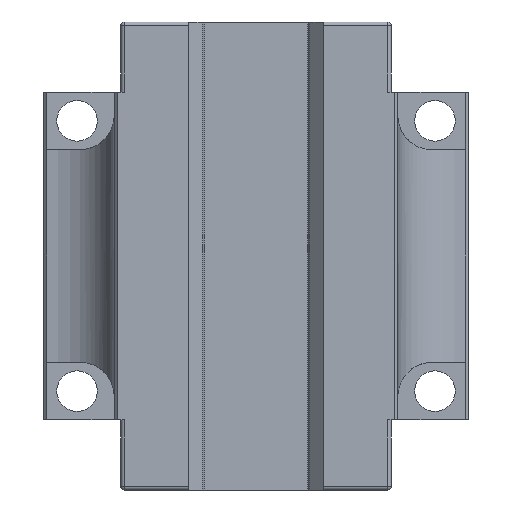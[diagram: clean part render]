
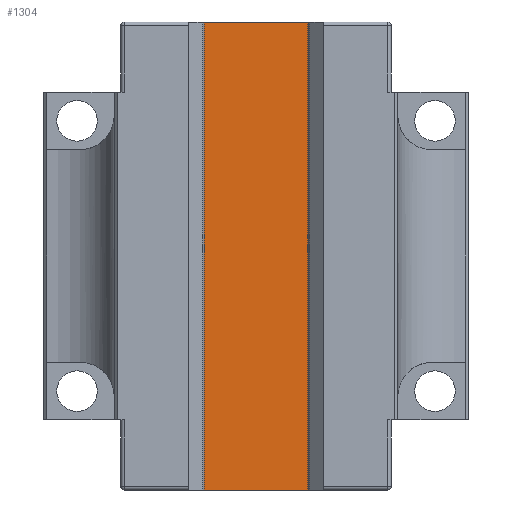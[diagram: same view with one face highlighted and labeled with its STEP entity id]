
A CAD part, front view. The second image highlights one B-rep face of the part: STEP entity #1304.
In plain terms, the highlighted planar face has unit normal (0, -1, 0).
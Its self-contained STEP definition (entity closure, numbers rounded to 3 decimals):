
#26 = VECTOR ( 'NONE', #2148, 1000. ) ;
#27 = PLANE ( 'NONE',  #1970 ) ;
#204 = VERTEX_POINT ( 'NONE', #330 ) ;
#238 = DIRECTION ( 'NONE',  ( 0., 1., 0. ) ) ;
#253 = ORIENTED_EDGE ( 'NONE', *, *, #891, .T. ) ;
#263 = EDGE_CURVE ( 'NONE', #2443, #204, #720, .T. ) ;
#330 = CARTESIAN_POINT ( 'NONE',  ( -9., 16.3, -34.65 ) ) ;
#379 = LINE ( 'NONE', #1908, #2091 ) ;
#383 = DIRECTION ( 'NONE',  ( 0., 0., -1. ) ) ;
#413 = LINE ( 'NONE', #1732, #1704 ) ;
#546 = CARTESIAN_POINT ( 'NONE',  ( -10., 16.3, 34.65 ) ) ;
#567 = DIRECTION ( 'NONE',  ( 0., 0., 1. ) ) ;
#683 = VECTOR ( 'NONE', #2172, 1000. ) ;
#705 = CARTESIAN_POINT ( 'NONE',  ( 9., 16.3, -34.65 ) ) ;
#714 = EDGE_LOOP ( 'NONE', ( #1815, #2578, #1685, #253 ) ) ;
#720 = LINE ( 'NONE', #2903, #683 ) ;
#879 = CARTESIAN_POINT ( 'NONE',  ( -10., 16.3, -34.65 ) ) ;
#891 = EDGE_CURVE ( 'NONE', #1879, #204, #413, .T. ) ;
#987 = EDGE_CURVE ( 'NONE', #2443, #1175, #379, .T. ) ;
#1120 = CARTESIAN_POINT ( 'NONE',  ( -9., 16.3, 34.65 ) ) ;
#1175 = VERTEX_POINT ( 'NONE', #2887 ) ;
#1304 = ADVANCED_FACE ( 'NONE', ( #1767 ), #27, .F. ) ;
#1338 = DIRECTION ( 'NONE',  ( 0., 0., 1. ) ) ;
#1410 = LINE ( 'NONE', #546, #26 ) ;
#1550 = EDGE_CURVE ( 'NONE', #1175, #1879, #1410, .T. ) ;
#1685 = ORIENTED_EDGE ( 'NONE', *, *, #1550, .T. ) ;
#1704 = VECTOR ( 'NONE', #383, 1000. ) ;
#1732 = CARTESIAN_POINT ( 'NONE',  ( -9., 16.3, -34.65 ) ) ;
#1767 = FACE_OUTER_BOUND ( 'NONE', #714, .T. ) ;
#1815 = ORIENTED_EDGE ( 'NONE', *, *, #263, .F. ) ;
#1879 = VERTEX_POINT ( 'NONE', #1120 ) ;
#1908 = CARTESIAN_POINT ( 'NONE',  ( 9., 16.3, 34.65 ) ) ;
#1970 = AXIS2_PLACEMENT_3D ( 'NONE', #879, #238, #1338 ) ;
#2091 = VECTOR ( 'NONE', #567, 1000. ) ;
#2148 = DIRECTION ( 'NONE',  ( -1., 0., 0. ) ) ;
#2172 = DIRECTION ( 'NONE',  ( -1., 0., 0. ) ) ;
#2443 = VERTEX_POINT ( 'NONE', #705 ) ;
#2578 = ORIENTED_EDGE ( 'NONE', *, *, #987, .T. ) ;
#2887 = CARTESIAN_POINT ( 'NONE',  ( 9., 16.3, 34.65 ) ) ;
#2903 = CARTESIAN_POINT ( 'NONE',  ( -10., 16.3, -34.65 ) ) ;
